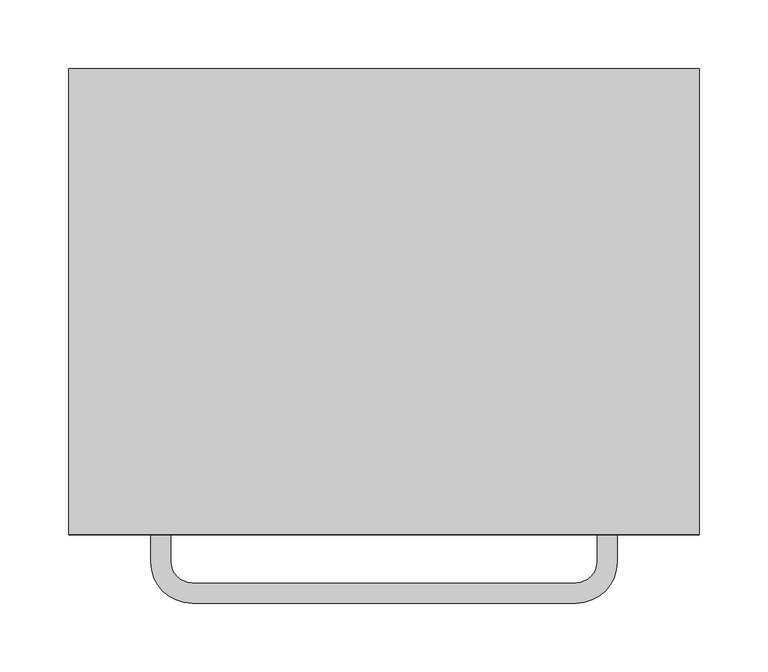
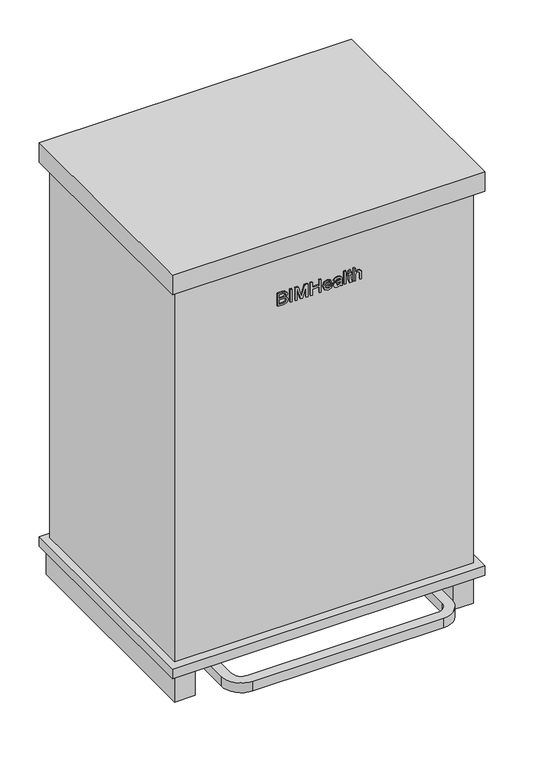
"""IFC4 building model written with IfcOpenShell, lengths in millimetres: furniture geometry, BIMHealth-Bin_Clinical_Foot_Operated-LOD2A-v1 : BIMHealth-Bin_Clinical_Foot_Operated-LOD2A-v1."""

from ifc_helpers import new_model, si_unit, point, frame, frame_2d, origin, origin_with_axes, place, context, project, spatial, polyline, circle_curve, trimmed, segment, composite_curve, outline, extrude, source, transform, mapped, element, save


def furniture_c6a9ce10(model_context):
    return source(origin(), model_context, "Body", "SweptSolid", [
        extrude(outline(polyline([(564.016543, 151.0723135), (564.016543, 158.5290442), (564.3554853, 161.6852942), (565.3554853, 163.8271212), (567.2401007, 165.2622173), (569.8867353, 165.8415442), (572.9492353, 164.9929865), (574.7857738, 162.5675058), (576.5285622, 164.5651019), (578.829043, 165.2261596), (581.3482738, 164.4401019), (583.1295238, 162.267025), (583.7088507, 158.5867365), (583.7088507, 151.0723135), (564.016543, 151.0723135)]), holes=[polyline([(575.7088507, 153.5338519), (581.2473122, 153.5338519), (581.2473122, 157.6876981), (580.9901007, 160.8511596), (580.0405815, 162.2694288), (578.4348122, 162.7646212), (576.8314468, 162.2333712), (575.9203892, 160.6540442), (575.7088507, 158.0290442), (575.7088507, 153.5338519)]), polyline([(566.4780815, 153.5338519), (573.2473122, 153.5338519), (573.2473122, 158.3415442), (572.9179853, 161.3824096), (571.7761584, 162.9088519), (569.8626968, 163.3800058), (567.110293, 161.954525), (566.5742353, 160.4088519), (566.4780815, 158.5819288), (566.4780815, 153.5338519)])]), frame((0.0, -319.779018, 0.0), z_axis=(0.0, 1.0, 0.0), x_axis=(0.0, 0.0, 1.0)), (0.0, 0.0, 1.0), 2.0),
        extrude(outline(polyline([(171.9953904, -319.779018), (169.5338519, -319.779018), (169.5338519, -317.779018), (171.9953904, -317.779018), (171.9953904, -319.779018)])), frame((0.0, 0.0, 564.016543), z_axis=(0.0, 0.0, 1.0), x_axis=(1.0, 0.0, 0.0)), (0.0, 0.0, 1.0), 19.6923077),
        extrude(outline(polyline([(564.016543, 176.9184673), (564.016543, 179.3800058), (581.2473122, 179.3800058), (564.016543, 184.3319288), (564.016543, 187.6636596), (581.2473122, 192.610775), (564.016543, 192.610775), (564.016543, 195.0723135), (583.7088507, 195.0723135), (583.7088507, 190.8367365), (570.0694276, 186.8751981), (566.9300045, 185.9953904), (569.829043, 185.1780827), (583.7088507, 181.1396212), (583.7088507, 176.9184673), (564.016543, 176.9184673)])), frame((0.0, -319.779018, 0.0), z_axis=(0.0, 1.0, 0.0), x_axis=(0.0, 0.0, 1.0)), (0.0, 0.0, 1.0), 2.0),
        extrude(outline(polyline([(564.016543, 199.3800058), (564.016543, 201.8415442), (573.2473122, 201.8415442), (573.2473122, 212.3030827), (564.016543, 212.3030827), (564.016543, 214.7646212), (583.7088507, 214.7646212), (583.7088507, 212.3030827), (575.7088507, 212.3030827), (575.7088507, 201.8415442), (583.7088507, 201.8415442), (583.7088507, 199.3800058), (564.016543, 199.3800058)])), frame((0.0, -319.779018, 0.0), z_axis=(0.0, 1.0, 0.0), x_axis=(0.0, 0.0, 1.0)), (0.0, 0.0, 1.0), 2.0),
        extrude(outline(polyline([(568.3242353, 228.8896212), (566.6848122, 227.3030827), (566.1703892, 224.8896212), (567.2809661, 221.7189481), (570.4780815, 220.3030827), (571.141543, 231.3800058), (576.7809661, 229.5122173), (578.7857738, 224.7021212), (576.7761584, 219.7501981), (571.1271199, 217.8415442), (565.6583699, 219.7309673), (563.7088507, 224.8415442), (564.8386584, 229.0458712), (568.016543, 231.3030827), (568.3242353, 228.8896212)]), holes=[polyline([(572.9396199, 220.3030827), (575.4035622, 221.6612558), (576.3242353, 224.6925058), (575.1703892, 227.9328904), (572.9396199, 228.9184673), (572.9396199, 220.3030827)])]), frame((0.0, -319.779018, 0.0), z_axis=(0.0, 1.0, 0.0), x_axis=(0.0, 0.0, 1.0)), (0.0, 0.0, 1.0), 2.0),
        extrude(outline(polyline([(565.8626968, 243.0723135), (564.016543, 243.6876981), (564.016543, 246.1492365), (566.0862545, 245.6588519), (570.3626968, 245.5338519), (573.4251968, 245.5338519), (575.579043, 245.4136596), (577.2497161, 244.6588519), (578.3482738, 242.9737558), (578.7857738, 239.9905827), (578.2905815, 236.7429865), (576.8819276, 234.5987558), (574.4780815, 233.5338519), (574.1703892, 235.9953904), (575.8506776, 237.1828904), (576.3242353, 239.673275), (575.6126968, 242.3944288), (573.2473122, 243.0578904), (572.4011584, 238.7886596), (572.0309661, 236.6588519), (571.2232738, 234.9352942), (569.8098122, 233.6973135), (567.8626968, 233.2261596), (564.8771199, 234.4737558), (563.7088507, 238.048275), (564.1944276, 240.6852942), (565.8626968, 243.0723135)]), holes=[polyline([(570.4372161, 243.0651019), (568.1848122, 242.6684673), (566.7593315, 241.0626981), (566.1703892, 238.5723135), (569.6319276, 236.9833712), (570.0309661, 239.1011596), (570.4372161, 243.0651019)])]), frame((0.0, -319.779018, 0.0), z_axis=(0.0, 1.0, 0.0), x_axis=(0.0, 0.0, 1.0)), (0.0, 0.0, 1.0), 2.0),
        extrude(outline(polyline([(251.3800058, -319.779018), (248.9184673, -319.779018), (248.9184673, -317.779018), (251.3800058, -317.779018), (251.3800058, -319.779018)])), frame((0.0, 0.0, 564.016543), z_axis=(0.0, 0.0, 1.0), x_axis=(1.0, 0.0, 0.0)), (0.0, 0.0, 1.0), 19.6923077),
        extrude(outline(polyline([(567.0622161, 259.0723135), (576.016543, 257.8415442), (576.016543, 260.3030827), (578.4780815, 260.3030827), (578.4780815, 257.8415442), (583.4396199, 257.8415442), (581.9925045, 255.3800058), (578.4780815, 255.3800058), (578.4780815, 253.5338519), (576.016543, 253.5338519), (576.016543, 255.3800058), (567.9828892, 255.3800058), (564.1175045, 256.7069288), (563.7088507, 258.7694288), (563.9444276, 260.610775), (567.0622161, 259.0723135)])), frame((0.0, -319.779018, 0.0), z_axis=(0.0, 1.0, 0.0), x_axis=(0.0, 0.0, 1.0)), (0.0, 0.0, 1.0), 2.0),
        extrude(outline(polyline([(564.016543, 262.7646212), (564.016543, 265.2261596), (571.6992353, 265.2261596), (574.2905815, 265.6276019), (575.7761584, 266.9737558), (576.3242353, 268.9905827), (575.5117353, 271.2117365), (572.9155815, 271.9953904), (564.016543, 271.9953904), (564.016543, 274.4569288), (573.1703892, 274.4569288), (576.4059661, 273.9521212), (578.1535622, 272.2742365), (578.7857738, 269.5098135), (576.4684661, 265.2261596), (583.7088507, 265.2261596), (583.7088507, 262.7646212), (564.016543, 262.7646212)])), frame((0.0, -319.779018, 0.0), z_axis=(0.0, 1.0, 0.0), x_axis=(0.0, 0.0, 1.0)), (0.0, 0.0, 1.0), 2.0),
        extrude(outline(polyline([(450.0, -330.0), (-10.0, -330.0), (-10.0, 10.0), (450.0, 10.0), (450.0, -330.0)])), frame((0.0, 0.0, 47.5), z_axis=(0.0, 0.0, 1.0), x_axis=(1.0, 0.0, 0.0)), (0.0, 0.0, 1.0), 15.0),
        extrude(outline(polyline([(450.0, -330.0), (-10.0, -330.0), (-10.0, 10.0), (450.0, 10.0), (450.0, -330.0)])), frame((0.0, 0.0, 645.0), z_axis=(0.0, 0.0, 1.0), x_axis=(1.0, 0.0, 0.0)), (0.0, 0.0, 1.0), 30.0),
        extrude(outline(polyline([(440.0, -317.779018), (0.0, -317.779018), (0.0, 0.0), (440.0, 0.0), (440.0, -317.779018)])), frame((0.0, 0.0, 62.5), z_axis=(0.0, 0.0, 1.0), x_axis=(1.0, 0.0, 0.0)), (0.0, 0.0, 1.0), 582.5),
        extrude(outline(polyline([(410.0, -20.0), (30.0, -20.0), (30.0, -317.779018), (0.0, -317.779018), (0.0, 10.0), (440.0, 10.0), (440.0, -317.779018), (410.0, -317.779018), (410.0, -20.0)])), origin_with_axes(), (0.0, 0.0, 1.0), 47.5),
        extrude(outline(composite_curve([segment(polyline([(360.0, -380.0), (80.0, -380.0)]), True, "CONTINUOUS"), segment(trimmed(circle_curve(frame_2d((80.0, -350.0)), 30.0), [point((80.0, -380.0))], [point((50.0, -350.0))], False, "CARTESIAN"), True, "CONTINUOUS"), segment(polyline([(50.0, -350.0), (50.0, -132.779018), (390.0, -132.779018), (390.0, -350.0)]), True, "CONTINUOUS"), segment(trimmed(circle_curve(frame_2d((360.0, -350.0)), 30.0), [point((390.0, -350.0))], [point((360.0, -380.0))], False, "CARTESIAN"), True, "CONTINUOUS")], self_intersect=False), holes=[composite_curve([segment(trimmed(circle_curve(frame_2d((80.0, -350.0)), 15.0), [point((65.0, -350.0))], [point((80.0, -365.0))], True, "CARTESIAN"), True, "CONTINUOUS"), segment(polyline([(80.0, -365.0), (360.0, -365.0)]), True, "CONTINUOUS"), segment(trimmed(circle_curve(frame_2d((360.0, -350.0)), 15.0), [point((360.0, -365.0))], [point((375.0, -350.0))], True, "CARTESIAN"), True, "CONTINUOUS"), segment(polyline([(375.0, -350.0), (375.0, -147.779018), (65.0, -147.779018), (65.0, -350.0)]), True, "CONTINUOUS")], self_intersect=False)]), frame((0.0, 0.0, 27.5), z_axis=(0.0, 0.0, 1.0), x_axis=(1.0, 0.0, 0.0)), (0.0, 0.0, 1.0), 15.0),
    ])


if __name__ == "__main__":
    model = new_model("IFC4")
    model_context = context("Model", 3, world=origin())
    ifc_project = project(units=[si_unit("LENGTHUNIT", "METRE", prefix="MILLI")], contexts=[model_context])
    site = spatial("IfcSite", under=ifc_project)
    building = spatial("IfcBuilding", under=site)
    placement = place(None, origin())
    furniture_shape = furniture_c6a9ce10(model_context)
    element("IfcFurniture", 1, ObjectType="BIMHealth-Bin_Clinical_Foot_Operated-LOD2A-v1 : BIMHealth-Bin_Clinical_Foot_Operated-LOD2A-v1", at=placement, inside=building, context=model_context, shape_type="MappedRepresentation", body=[
        mapped(furniture_shape, transform((0.0, 0.0, 0.0), x_axis=(1.0, 0.0, 0.0), y_axis=(0.0, 1.0, 0.0), z_axis=(0.0, 0.0, 1.0))),
    ])
    save(model, "model.ifc")
